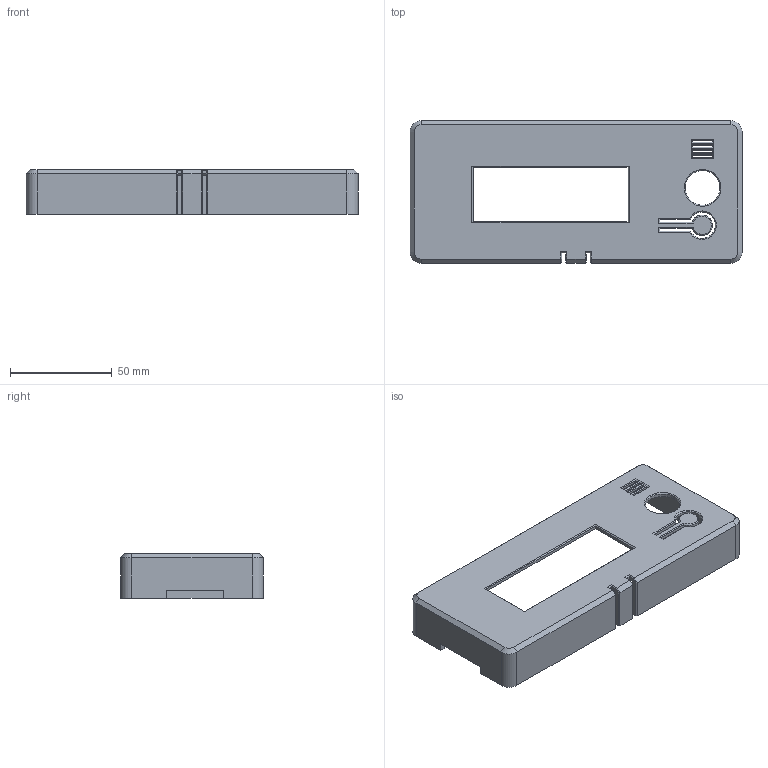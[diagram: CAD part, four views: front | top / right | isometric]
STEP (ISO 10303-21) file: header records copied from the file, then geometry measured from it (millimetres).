
FILE_DESCRIPTION(('CATIA V5 STEP Exchange'),'2;1');
FILE_NAME('D:\_이전 노트북\Cremaker모델링\Cremaker_profile-Metal(5차)-(Final)\Lcd-case.stp','2020-10-23T05:21:59+00:00',('none'),('none'),'CATIA Version 5 Release 20 GA (IN-10)','CATIA V5 STEP AP203','none');
FILE_SCHEMA(('CONFIG_CONTROL_DESIGN'));
Length unit declared in the file: millimetre
Products named in the file (1): Lcd-case
Bounding box: 162.8 x 69.8 x 22 mm (x, y, z)
Volume: 38033.4 mm3; surface area: 36297.5 mm2
Topology: 1 solids, 1 shells, 161 faces, 411 edges, 252 vertices
Faces by surface type: plane 135, cylinder 14, cone 12
Entity records: 4549 total; most frequent: CARTESIAN_POINT 835, ORIENTED_EDGE 822, DIRECTION 629, EDGE_CURVE 411, VECTOR 330, LINE 330, VERTEX_POINT 252, EDGE_LOOP 175
